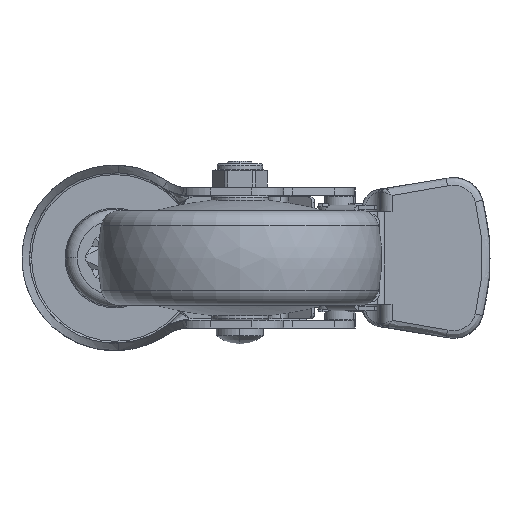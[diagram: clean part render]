
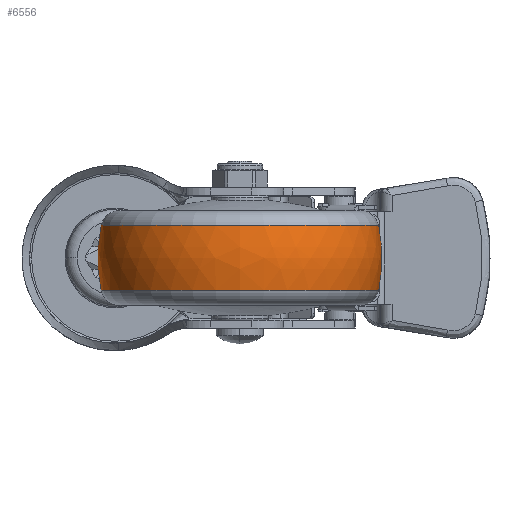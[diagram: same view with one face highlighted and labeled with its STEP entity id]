
A CAD part, front view. The second image highlights one B-rep face of the part: STEP entity #6556.
In plain terms, the highlighted free-form (B-spline) face has degree [3, 3] with [7, 4] control points.
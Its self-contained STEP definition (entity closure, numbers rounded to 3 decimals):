
#5829=CARTESIAN_POINT('',(-8.571,0.,0.));
#5830=DIRECTION('',(-1.,0.,0.));
#5831=DIRECTION('',(0.,1.,0.));
#5832=AXIS2_PLACEMENT_3D('',#5829,#5830,#5831);
#5844=CARTESIAN_POINT('',(0.,-2.5,0.));
#5845=DIRECTION('',(0.,0.,1.));
#5846=DIRECTION('',(0.214,0.977,0.));
#5847=AXIS2_PLACEMENT_3D('',#5844,#5845,#5846);
#5849=CARTESIAN_POINT('',(0.,2.5,0.));
#5850=DIRECTION('',(0.,0.,-1.));
#5851=DIRECTION('',(0.214,-0.977,0.));
#5852=AXIS2_PLACEMENT_3D('',#5849,#5850,#5851);
#5854=CARTESIAN_POINT('',(8.571,0.,0.));
#5855=DIRECTION('',(-1.,0.,0.));
#5856=DIRECTION('',(0.,1.,0.));
#5857=AXIS2_PLACEMENT_3D('',#5854,#5855,#5856);
#6420=CARTESIAN_POINT('',(8.571,36.571,0.));
#6422=VERTEX_POINT('',#6420);
#6423=CARTESIAN_POINT('',(-8.571,36.571,0.));
#6424=VERTEX_POINT('',#6423);
#6428=CARTESIAN_POINT('',(8.571,-36.571,0.));
#6430=VERTEX_POINT('',#6428);
#6431=CARTESIAN_POINT('',(-8.571,-36.571,0.));
#6432=VERTEX_POINT('',#6431);
#6520=CARTESIAN_POINT('',(-8.909,-36.423,
2.292));
#6521=CARTESIAN_POINT('',(-3.02,-37.766,
2.376));
#6522=CARTESIAN_POINT('',(3.02,-37.766,2.376));
#6523=CARTESIAN_POINT('',(8.909,-36.423,2.292));
#6524=CARTESIAN_POINT('',(-8.909,-37.834,
-20.123));
#6525=CARTESIAN_POINT('',(-3.02,-39.228,
-20.865));
#6526=CARTESIAN_POINT('',(3.02,-39.228,
-20.865));
#6527=CARTESIAN_POINT('',(8.909,-37.834,
-20.123));
#6528=CARTESIAN_POINT('',(-8.909,-22.459,
-36.495));
#6529=CARTESIAN_POINT('',(-3.02,-23.287,
-37.841));
#6530=CARTESIAN_POINT('',(3.02,-23.287,
-37.841));
#6531=CARTESIAN_POINT('',(8.909,-22.459,
-36.495));
#6532=CARTESIAN_POINT('',(-8.909,0.,
-36.495));
#6533=CARTESIAN_POINT('',(-3.02,0.,
-37.841));
#6534=CARTESIAN_POINT('',(3.02,0.,
-37.841));
#6535=CARTESIAN_POINT('',(8.909,0.,-36.495));
#6536=CARTESIAN_POINT('',(-8.909,22.459,
-36.495));
#6537=CARTESIAN_POINT('',(-3.02,23.287,
-37.841));
#6538=CARTESIAN_POINT('',(3.02,23.287,-37.841));
#6539=CARTESIAN_POINT('',(8.909,22.459,-36.495));
#6540=CARTESIAN_POINT('',(-8.909,37.834,
-20.123));
#6541=CARTESIAN_POINT('',(-3.02,39.228,
-20.865));
#6542=CARTESIAN_POINT('',(3.02,39.228,-20.865));
#6543=CARTESIAN_POINT('',(8.909,37.834,-20.123));
#6544=CARTESIAN_POINT('',(-8.909,36.423,2.292));
#6545=CARTESIAN_POINT('',(-3.02,37.766,2.376));
#6546=CARTESIAN_POINT('',(3.02,37.766,2.376));
#6547=CARTESIAN_POINT('',(8.909,36.423,2.292));
#6548=(BOUNDED_SURFACE()B_SPLINE_SURFACE(3,3,((#6520,#6521,#6522,#6523),(#6524,
#6525,#6526,#6527),(#6528,#6529,#6530,#6531),(#6532,#6533,#6534,#6535),(#6536,
#6537,#6538,#6539),(#6540,#6541,#6542,#6543),(#6544,#6545,#6546,#6547)),
.UNSPECIFIED.,.F.,.F.,.F.)B_SPLINE_SURFACE_WITH_KNOTS((4,3,4),(4,4),(0.,1.,
2.),(0.,1.),.UNSPECIFIED.)GEOMETRIC_REPRESENTATION_ITEM()RATIONAL_B_SPLINE_SURFACE(((1.202,1.182,1.182,1.202),(
0.95,0.934,0.934,0.95),(
0.95,0.934,0.934,0.95),(
1.202,1.182,1.182,1.202),(
0.95,0.934,0.934,0.95),(
0.95,0.934,0.934,0.95),(
1.202,1.182,1.182,1.202)))REPRESENTATION_ITEM('')SURFACE());
#6549=ORIENTED_EDGE('',*,*,#6510,.T.);
#6550=ORIENTED_EDGE('',*,*,#6463,.T.);
#6551=ORIENTED_EDGE('',*,*,#6514,.F.);
#6553=ORIENTED_EDGE('',*,*,#6552,.F.);
#6554=EDGE_LOOP('',(#6549,#6550,#6551,#6553));
#6555=FACE_OUTER_BOUND('',#6554,.F.);
#5833=CIRCLE('',#5832,36.571);
#5848=CIRCLE('',#5847,40.);
#5853=CIRCLE('',#5852,40.);
#5858=CIRCLE('',#5857,36.571);
#6463=EDGE_CURVE('',#6424,#6432,#5833,.T.);
#6510=EDGE_CURVE('',#6422,#6424,#5848,.T.);
#6514=EDGE_CURVE('',#6430,#6432,#5853,.T.);
#6552=EDGE_CURVE('',#6422,#6430,#5858,.T.);
#6556=ADVANCED_FACE('',(#6555),#6548,.T.);
